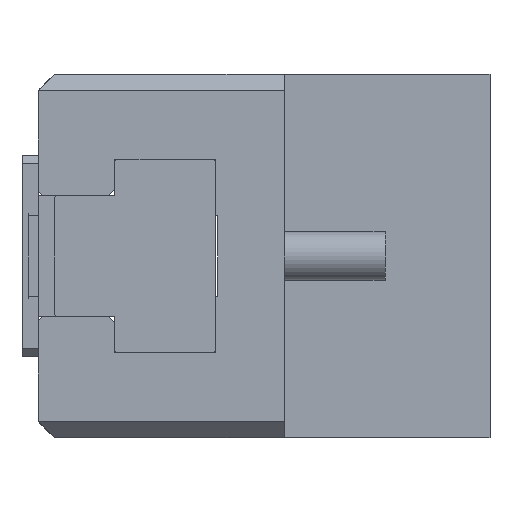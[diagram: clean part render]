
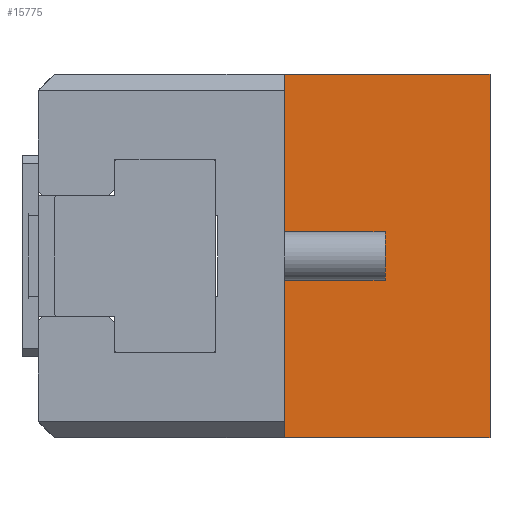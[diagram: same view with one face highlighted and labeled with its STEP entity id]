
A CAD part, left-side view. The second image highlights one B-rep face of the part: STEP entity #15775.
In plain terms, the highlighted planar face has unit normal (-1, 0, 0).
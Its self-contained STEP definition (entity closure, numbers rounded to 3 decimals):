
#722 = CARTESIAN_POINT ( 'NONE',  ( -78., 51., 45. ) ) ;
#3930 = LINE ( 'NONE', #7208, #46485 ) ;
#5303 = CARTESIAN_POINT ( 'NONE',  ( -78., 51., -45. ) ) ;
#6254 = DIRECTION ( 'NONE',  ( 1., 0., 0. ) ) ;
#7208 = CARTESIAN_POINT ( 'NONE',  ( -78., 51., 45. ) ) ;
#8738 = ORIENTED_EDGE ( 'NONE', *, *, #43841, .T. ) ;
#10002 = VERTEX_POINT ( 'NONE', #14365 ) ;
#10197 = DIRECTION ( 'NONE',  ( 0., 0., 1. ) ) ;
#11506 = EDGE_CURVE ( 'NONE', #10002, #40142, #3930, .T. ) ;
#12868 = VECTOR ( 'NONE', #16316, 1000. ) ;
#13231 = FACE_OUTER_BOUND ( 'NONE', #45998, .T. ) ;
#13566 = LINE ( 'NONE', #34774, #23934 ) ;
#14365 = CARTESIAN_POINT ( 'NONE',  ( -78., 51., 45. ) ) ;
#14624 = EDGE_CURVE ( 'NONE', #10002, #36346, #23219, .T. ) ;
#15030 = LINE ( 'NONE', #49085, #25398 ) ;
#15775 = ADVANCED_FACE ( 'NONE', ( #13231 ), #29531, .F. ) ;
#16316 = DIRECTION ( 'NONE',  ( 0., -1., 0. ) ) ;
#18472 = ORIENTED_EDGE ( 'NONE', *, *, #14624, .F. ) ;
#23219 = LINE ( 'NONE', #722, #12868 ) ;
#23934 = VECTOR ( 'NONE', #30872, 1000. ) ;
#25398 = VECTOR ( 'NONE', #10197, 1000. ) ;
#25611 = CARTESIAN_POINT ( 'NONE',  ( -78., 0., 45. ) ) ;
#25631 = CARTESIAN_POINT ( 'NONE',  ( -78., 51., 45. ) ) ;
#26529 = CARTESIAN_POINT ( 'NONE',  ( -78., 0., -45. ) ) ;
#29531 = PLANE ( 'NONE',  #36945 ) ;
#30872 = DIRECTION ( 'NONE',  ( 0., -1., 0. ) ) ;
#33226 = ORIENTED_EDGE ( 'NONE', *, *, #11506, .T. ) ;
#33419 = DIRECTION ( 'NONE',  ( 0., 0., -1. ) ) ;
#34774 = CARTESIAN_POINT ( 'NONE',  ( -78., 51., -45. ) ) ;
#35943 = EDGE_CURVE ( 'NONE', #43433, #36346, #15030, .T. ) ;
#36346 = VERTEX_POINT ( 'NONE', #25611 ) ;
#36945 = AXIS2_PLACEMENT_3D ( 'NONE', #25631, #6254, #33419 ) ;
#40142 = VERTEX_POINT ( 'NONE', #5303 ) ;
#43267 = ORIENTED_EDGE ( 'NONE', *, *, #35943, .T. ) ;
#43433 = VERTEX_POINT ( 'NONE', #26529 ) ;
#43841 = EDGE_CURVE ( 'NONE', #40142, #43433, #13566, .T. ) ;
#45998 = EDGE_LOOP ( 'NONE', ( #43267, #18472, #33226, #8738 ) ) ;
#46485 = VECTOR ( 'NONE', #49809, 1000. ) ;
#49085 = CARTESIAN_POINT ( 'NONE',  ( -78., 0., 45. ) ) ;
#49809 = DIRECTION ( 'NONE',  ( 0., 0., -1. ) ) ;
